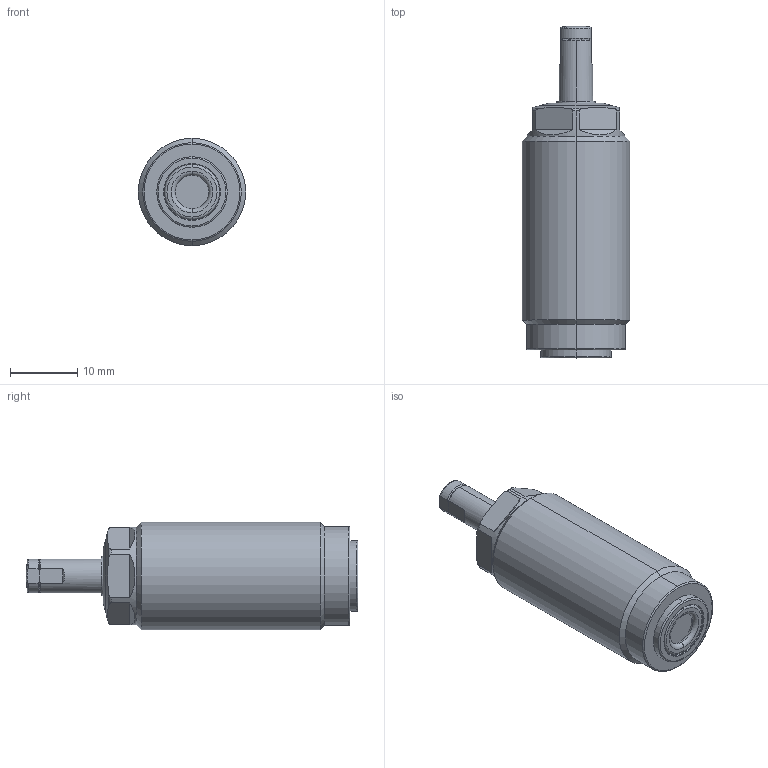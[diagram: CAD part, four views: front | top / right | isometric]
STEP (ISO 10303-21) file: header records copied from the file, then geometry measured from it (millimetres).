
FILE_DESCRIPTION(/* description */ (''),/* implementation_level */ '2;1');
FILE_NAME(/* name */ 'TNE16.stp',/* time_stamp */ '2024-04-27T17:14:47+08:00',/* author */ (''),/* organization */ (''),/* preprocessor_version */ 'ST-DEVELOPER v16.7',/* originating_system */ 'SIEMENS PLM Software NX 12.0',/* authorisation */ '');
FILE_SCHEMA (('AP203_CONFIGURATION_CONTROLLED_3D_DESIGN_OF_MECHANICAL_PARTS_AND_ASSEMBLIES_MIM_LF { 1 0 10303 403 2 1 2}'));
Length unit declared in the file: millimetre
Products named in the file (6): XLD-M3_contactbolt; XLD-M3_Oring; TNE16-02; TNE16-01; TNE16-03; WNC0103-x-E_step
Assembly tree (5 placements, depth 3):
  WNC0103-x-E_step
    TNE16-01
    TNE16-02
    TNE16-03
      XLD-M3_Oring
      XLD-M3_contactbolt
Bounding box: 16 x 49.5 x 16 mm (x, y, z)
Volume: 7113 mm3; surface area: 2702 mm2
Topology: 4 solids, 4 shells, 132 faces, 293 edges, 178 vertices
Faces by surface type: torus 40, cylinder 34, plane 34, cone 22, sphere 2
Entity records: 4717 total; most frequent: CARTESIAN_POINT 1059, DIRECTION 700, ORIENTED_EDGE 586, AXIS2_PLACEMENT_3D 307, EDGE_CURVE 293, VERTEX_POINT 178, CIRCLE 169, EDGE_LOOP 145
